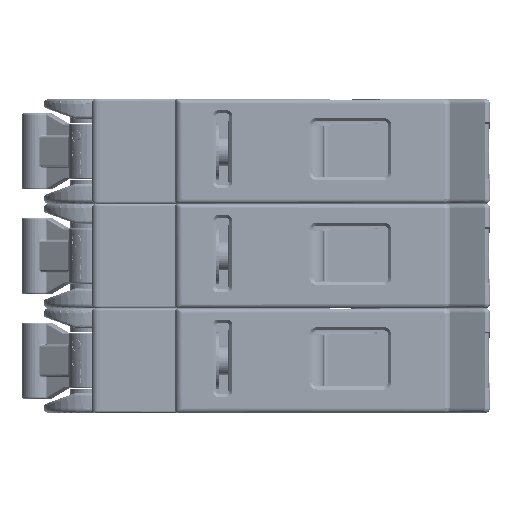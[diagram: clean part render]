
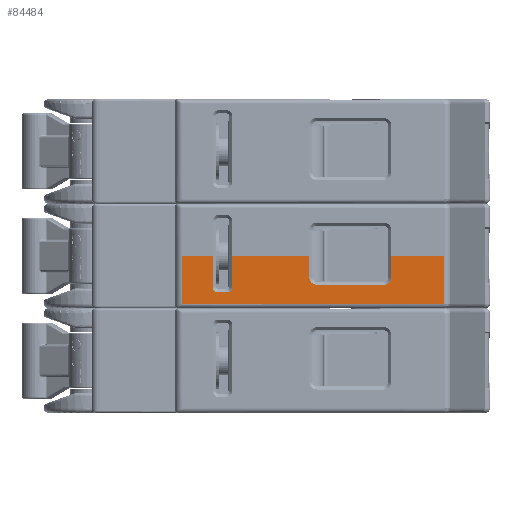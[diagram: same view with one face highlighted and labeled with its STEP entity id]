
A CAD part, left-side view. The second image highlights one B-rep face of the part: STEP entity #84484.
In plain terms, the highlighted planar face has unit normal (1, 0, 0).
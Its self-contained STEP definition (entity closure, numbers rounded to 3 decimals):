
#82221=CARTESIAN_POINT('',(-43.942,-31.267,-17.475));
#82222=VERTEX_POINT('',#82221);
#82229=CARTESIAN_POINT('',(-43.942,-31.267,-21.006));
#82230=VERTEX_POINT('',#82229);
#82231=CARTESIAN_POINT('',(-43.942,-31.267,-17.475));
#82232=DIRECTION('',(0.0,0.0,-1.0));
#82233=VECTOR('',#82232,3.531);
#82234=LINE('',#82231,#82233);
#82235=EDGE_CURVE('',#82222,#82230,#82234,.T.);
#84198=CARTESIAN_POINT('',(-43.942,-39.995,-17.475));
#84199=VERTEX_POINT('',#84198);
#84207=CARTESIAN_POINT('',(-43.942,-39.995,-17.475));
#84208=DIRECTION('',(0.0,1.0,0.0));
#84209=VECTOR('',#84208,8.728);
#84210=LINE('',#84207,#84209);
#84211=EDGE_CURVE('',#84199,#82222,#84210,.T.);
#84316=CARTESIAN_POINT('',(-43.942,-29.972,-22.301));
#84317=VERTEX_POINT('',#84316);
#84318=CARTESIAN_POINT('',(-43.942,-29.972,-21.006));
#84319=DIRECTION('',(1.0,0.,0.));
#84320=DIRECTION('',(0.,-0.095,-0.995));
#84321=AXIS2_PLACEMENT_3D('',#84318,#84319,#84320);
#84322=CIRCLE('',#84321,1.295);
#84323=EDGE_CURVE('',#82230,#84317,#84322,.T.);
#84369=CARTESIAN_POINT('',(-43.942,-18.181,-25.584));
#84370=DIRECTION('',(-1.0,0.0,0.0));
#84371=DIRECTION('',(0.0,0.0,1.0));
#84372=AXIS2_PLACEMENT_3D('',#84369,#84370,#84371);
#84373=PLANE('',#84372);
#84374=CARTESIAN_POINT('',(-43.942,-17.551,-21.006));
#84375=VERTEX_POINT('',#84374);
#84376=CARTESIAN_POINT('',(-43.942,-17.551,-17.475));
#84377=VERTEX_POINT('',#84376);
#84378=CARTESIAN_POINT('',(-43.942,-17.551,-21.006));
#84379=DIRECTION('',(0.0,0.0,1.0));
#84380=VECTOR('',#84379,3.531);
#84381=LINE('',#84378,#84380);
#84382=EDGE_CURVE('',#84375,#84377,#84381,.T.);
#84383=ORIENTED_EDGE('',*,*,#84382,.F.);
#84384=CARTESIAN_POINT('',(-43.942,-18.847,-22.301));
#84385=VERTEX_POINT('',#84384);
#84386=CARTESIAN_POINT('',(-43.942,-18.847,-21.006));
#84387=DIRECTION('',(1.0,0.,0.));
#84388=DIRECTION('',(0.,0.995,-0.095));
#84389=AXIS2_PLACEMENT_3D('',#84386,#84387,#84388);
#84390=CIRCLE('',#84389,1.295);
#84391=EDGE_CURVE('',#84385,#84375,#84390,.T.);
#84392=ORIENTED_EDGE('',*,*,#84391,.F.);
#84393=CARTESIAN_POINT('',(-43.942,-29.972,-22.301));
#84394=DIRECTION('',(0.0,1.0,0.0));
#84395=VECTOR('',#84394,11.125);
#84396=LINE('',#84393,#84395);
#84397=EDGE_CURVE('',#84317,#84385,#84396,.T.);
#84398=ORIENTED_EDGE('',*,*,#84397,.F.);
#84399=ORIENTED_EDGE('',*,*,#84323,.F.);
#84400=ORIENTED_EDGE('',*,*,#82235,.F.);
#84401=ORIENTED_EDGE('',*,*,#84211,.F.);
#84402=CARTESIAN_POINT('',(-43.942,-39.995,-25.425));
#84403=VERTEX_POINT('',#84402);
#84404=CARTESIAN_POINT('',(-43.942,-39.995,-25.425));
#84405=DIRECTION('',(0.0,0.,1.0));
#84406=VECTOR('',#84405,7.95);
#84407=LINE('',#84404,#84406);
#84408=EDGE_CURVE('',#84403,#84199,#84407,.T.);
#84409=ORIENTED_EDGE('',*,*,#84408,.F.);
#84410=CARTESIAN_POINT('',(-43.942,3.632,-25.425));
#84411=VERTEX_POINT('',#84410);
#84412=CARTESIAN_POINT('',(-43.942,-39.995,-25.425));
#84413=DIRECTION('',(0.0,1.0,0.0));
#84414=VECTOR('',#84413,43.627);
#84415=LINE('',#84412,#84414);
#84416=EDGE_CURVE('',#84403,#84411,#84415,.T.);
#84417=ORIENTED_EDGE('',*,*,#84416,.T.);
#84418=CARTESIAN_POINT('',(-43.942,3.632,-17.475));
#84419=VERTEX_POINT('',#84418);
#84420=CARTESIAN_POINT('',(-43.942,3.632,-17.475));
#84421=DIRECTION('',(0.0,0.0,-1.0));
#84422=VECTOR('',#84421,7.95);
#84423=LINE('',#84420,#84422);
#84424=EDGE_CURVE('',#84419,#84411,#84423,.T.);
#84425=ORIENTED_EDGE('',*,*,#84424,.F.);
#84426=CARTESIAN_POINT('',(-43.942,-1.422,-17.475));
#84427=VERTEX_POINT('',#84426);
#84428=CARTESIAN_POINT('',(-43.942,-1.422,-17.475));
#84429=DIRECTION('',(0.0,1.0,0.0));
#84430=VECTOR('',#84429,5.055);
#84431=LINE('',#84428,#84430);
#84432=EDGE_CURVE('',#84427,#84419,#84431,.T.);
#84433=ORIENTED_EDGE('',*,*,#84432,.F.);
#84434=CARTESIAN_POINT('',(-43.942,-1.422,-22.555));
#84435=VERTEX_POINT('',#84434);
#84436=CARTESIAN_POINT('',(-43.942,-1.422,-22.555));
#84437=DIRECTION('',(0.0,0.0,1.0));
#84438=VECTOR('',#84437,5.08);
#84439=LINE('',#84436,#84438);
#84440=EDGE_CURVE('',#84435,#84427,#84439,.T.);
#84441=ORIENTED_EDGE('',*,*,#84440,.F.);
#84442=CARTESIAN_POINT('',(-43.942,-2.438,-23.571));
#84443=VERTEX_POINT('',#84442);
#84444=CARTESIAN_POINT('',(-43.942,-2.438,-22.555));
#84445=DIRECTION('',(1.,0.0,0.0));
#84446=DIRECTION('',(0.0,0.998,-0.061));
#84447=AXIS2_PLACEMENT_3D('',#84444,#84445,#84446);
#84448=CIRCLE('',#84447,1.016);
#84449=EDGE_CURVE('',#84443,#84435,#84448,.T.);
#84450=ORIENTED_EDGE('',*,*,#84449,.F.);
#84451=CARTESIAN_POINT('',(-43.942,-3.708,-23.571));
#84452=VERTEX_POINT('',#84451);
#84453=CARTESIAN_POINT('',(-43.942,-3.708,-23.571));
#84454=DIRECTION('',(0.0,1.0,0.0));
#84455=VECTOR('',#84454,1.27);
#84456=LINE('',#84453,#84455);
#84457=EDGE_CURVE('',#84452,#84443,#84456,.T.);
#84458=ORIENTED_EDGE('',*,*,#84457,.F.);
#84459=CARTESIAN_POINT('',(-43.942,-4.724,-22.555));
#84460=VERTEX_POINT('',#84459);
#84461=CARTESIAN_POINT('',(-43.942,-3.708,-22.555));
#84462=DIRECTION('',(1.0,0.,0.));
#84463=DIRECTION('',(0.,-0.061,-0.998));
#84464=AXIS2_PLACEMENT_3D('',#84461,#84462,#84463);
#84465=CIRCLE('',#84464,1.016);
#84466=EDGE_CURVE('',#84460,#84452,#84465,.T.);
#84467=ORIENTED_EDGE('',*,*,#84466,.F.);
#84468=CARTESIAN_POINT('',(-43.942,-4.724,-17.475));
#84469=VERTEX_POINT('',#84468);
#84470=CARTESIAN_POINT('',(-43.942,-4.724,-17.475));
#84471=DIRECTION('',(0.0,0.0,-1.0));
#84472=VECTOR('',#84471,5.08);
#84473=LINE('',#84470,#84472);
#84474=EDGE_CURVE('',#84469,#84460,#84473,.T.);
#84475=ORIENTED_EDGE('',*,*,#84474,.F.);
#84476=CARTESIAN_POINT('',(-43.942,-17.551,-17.475));
#84477=DIRECTION('',(0.0,1.0,0.0));
#84478=VECTOR('',#84477,12.827);
#84479=LINE('',#84476,#84478);
#84480=EDGE_CURVE('',#84377,#84469,#84479,.T.);
#84481=ORIENTED_EDGE('',*,*,#84480,.F.);
#84482=EDGE_LOOP('',(#84383,#84392,#84398,#84399,#84400,#84401,#84409,#84417,#84425,#84433,#84441,#84450,#84458,#84467,#84475,#84481));
#84483=FACE_OUTER_BOUND('',#84482,.T.);
#84484=ADVANCED_FACE('',(#84483),#84373,.F.);
